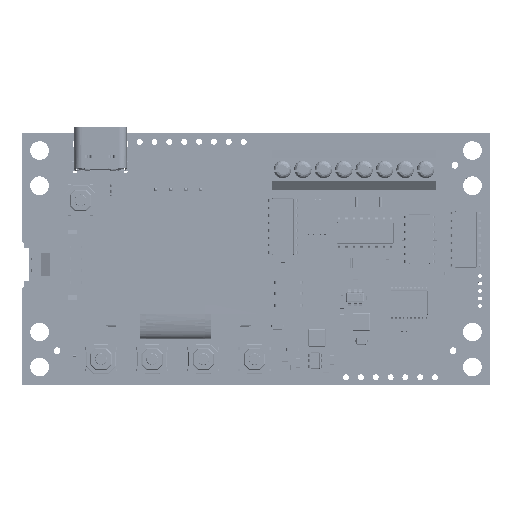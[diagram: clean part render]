
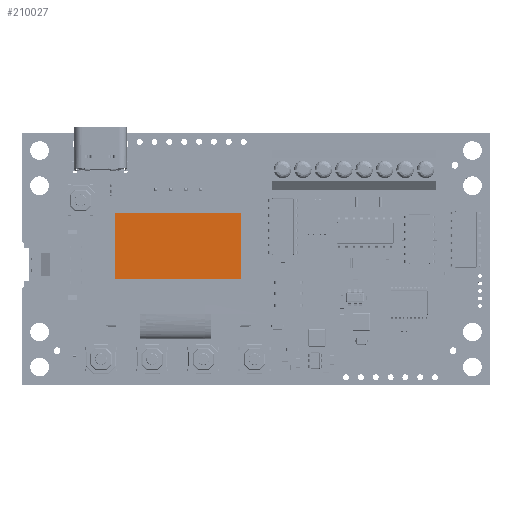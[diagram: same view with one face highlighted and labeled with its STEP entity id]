
A CAD part, top view. The second image highlights one B-rep face of the part: STEP entity #210027.
In plain terms, the highlighted planar face has unit normal (0, 0, 1).
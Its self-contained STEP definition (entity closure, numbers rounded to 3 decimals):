
#209937 = VERTEX_POINT('',#209938);
#209938 = CARTESIAN_POINT('',(-23.55,-8.054,1.265));
#209944 = EDGE_CURVE('',#209945,#209937,#209947,.T.);
#209945 = VERTEX_POINT('',#209946);
#209946 = CARTESIAN_POINT('',(-45.11,-8.054,1.265));
#209947 = LINE('',#209948,#209949);
#209948 = CARTESIAN_POINT('',(-45.11,-8.054,1.265));
#209949 = VECTOR('',#209950,1.);
#209950 = DIRECTION('',(1.,0.,-0.));
#209968 = VERTEX_POINT('',#209969);
#209969 = CARTESIAN_POINT('',(-23.55,3.166,1.265));
#209975 = EDGE_CURVE('',#209937,#209968,#209976,.T.);
#209976 = LINE('',#209977,#209978);
#209977 = CARTESIAN_POINT('',(-23.55,3.166,1.265));
#209978 = VECTOR('',#209979,1.);
#209979 = DIRECTION('',(0.,1.,-0.));
#209992 = VERTEX_POINT('',#209993);
#209993 = CARTESIAN_POINT('',(-45.11,3.166,1.265));
#209999 = EDGE_CURVE('',#209968,#209992,#210000,.T.);
#210000 = LINE('',#210001,#210002);
#210001 = CARTESIAN_POINT('',(-45.11,3.166,1.265));
#210002 = VECTOR('',#210003,1.);
#210003 = DIRECTION('',(-1.,-0.,-0.));
#210016 = EDGE_CURVE('',#209992,#209945,#210017,.T.);
#210017 = LINE('',#210018,#210019);
#210018 = CARTESIAN_POINT('',(-45.11,3.166,1.265));
#210019 = VECTOR('',#210020,1.);
#210020 = DIRECTION('',(-0.,-1.,-0.));
#210027 = ADVANCED_FACE('',(#210028),#210034,.T.);
#210028 = FACE_BOUND('',#210029,.T.);
#210029 = EDGE_LOOP('',(#210030,#210031,#210032,#210033));
#210030 = ORIENTED_EDGE('',*,*,#209975,.T.);
#210031 = ORIENTED_EDGE('',*,*,#209999,.T.);
#210032 = ORIENTED_EDGE('',*,*,#210016,.T.);
#210033 = ORIENTED_EDGE('',*,*,#209944,.T.);
#210034 = PLANE('',#210035);
#210035 = AXIS2_PLACEMENT_3D('',#210036,#210037,#210038);
#210036 = CARTESIAN_POINT('',(-34.33,-3.004,1.265));
#210037 = DIRECTION('',(0.,0.,1.));
#210038 = DIRECTION('',(1.,0.,-0.));
